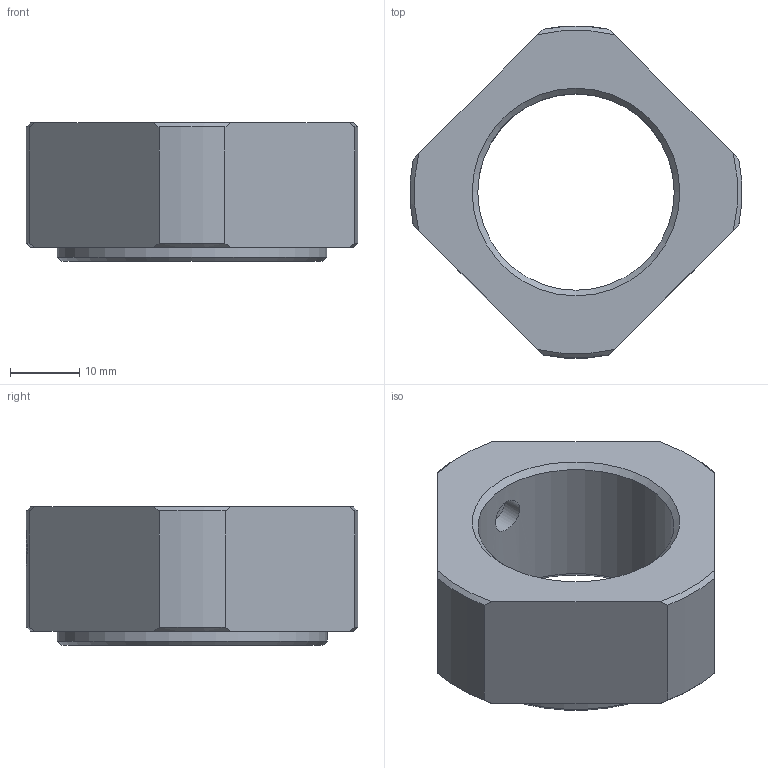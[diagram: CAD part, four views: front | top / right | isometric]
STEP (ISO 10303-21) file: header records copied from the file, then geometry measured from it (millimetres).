
FILE_DESCRIPTION(/* description */ ('STEP AP203'),/* implementation_level */ '2;1');
FILE_NAME(/* name */ 'RN 30',/* time_stamp */ '2025-06-11T07:42:19+02:00',/* author */ ('License CC BY-ND 4.0'),/* organization */ ('CADENAS'),/* preprocessor_version */ 'ST-DEVELOPER v19.3',/* originating_system */ 'PARTsolutions',/* authorisation */ ' ');
FILE_SCHEMA (('CONFIG_CONTROL_DESIGN'));
Length unit declared in the file: millimetre
Products named in the file (1): RN 30
Bounding box: 47.89 x 47.95 x 20 mm (x, y, z)
Volume: 16959.4 mm3; surface area: 6329.2 mm2
Topology: 1 solids, 1 shells, 36 faces, 88 edges, 58 vertices
Faces by surface type: plane 16, cone 12, cylinder 8
Full cylindrical faces by diameter (mm): 4.917 x1, 6 x1, 28.376 x1, 39 x1
Entity records: 1070 total; most frequent: CARTESIAN_POINT 239, DIRECTION 160, ORIENTED_EDGE 156, EDGE_CURVE 78, AXIS2_PLACEMENT_3D 63, VERTEX_POINT 56, EDGE_LOOP 50, FACE_BOUND 50
